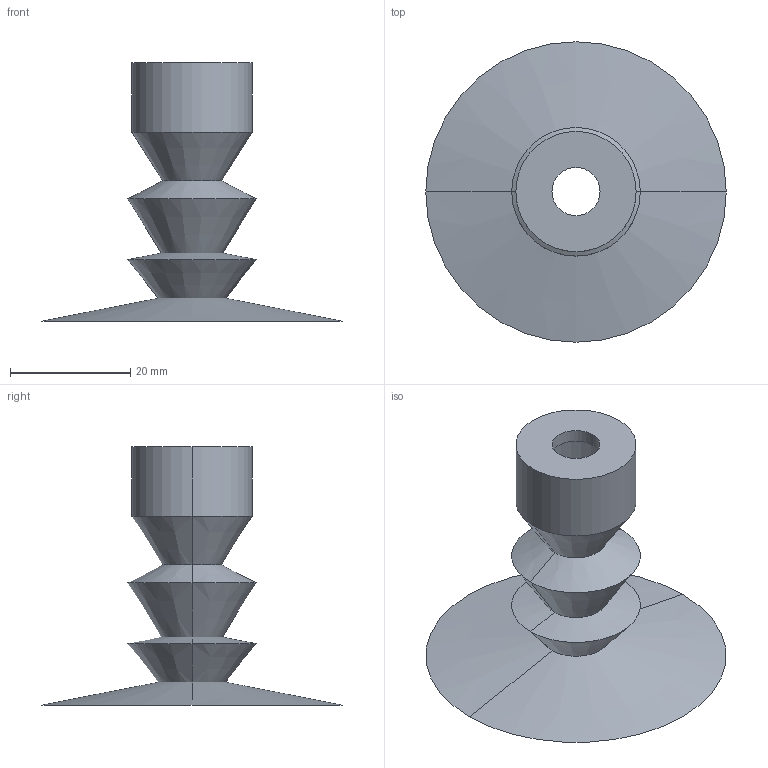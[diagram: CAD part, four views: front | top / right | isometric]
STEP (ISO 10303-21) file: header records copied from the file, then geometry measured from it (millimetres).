
FILE_DESCRIPTION (( 'STEP AP214' ), '1' );
FILE_NAME ('VSH3-M50.STEP', '2019-12-02T08:52:24', ( '微软用户' ), ( '微软中国' ), 'SwSTEP 2.0', 'SolidWorks 2016', '' );
FILE_SCHEMA (( 'AUTOMOTIVE_DESIGN' ));
Length unit declared in the file: millimetre
Products named in the file (1): VSH3-M50
Bounding box: 50 x 50 x 43 mm (x, y, z)
Volume: 2029.4 mm3; surface area: 9540 mm2
Topology: 1 solids, 1 shells, 36 faces, 72 edges, 40 vertices
Faces by surface type: cone 24, cylinder 8, plane 4
Entity records: 962 total; most frequent: DIRECTION 186, CARTESIAN_POINT 149, ORIENTED_EDGE 144, AXIS2_PLACEMENT_3D 77, EDGE_CURVE 72, EDGE_LOOP 40, CIRCLE 40, VERTEX_POINT 40
